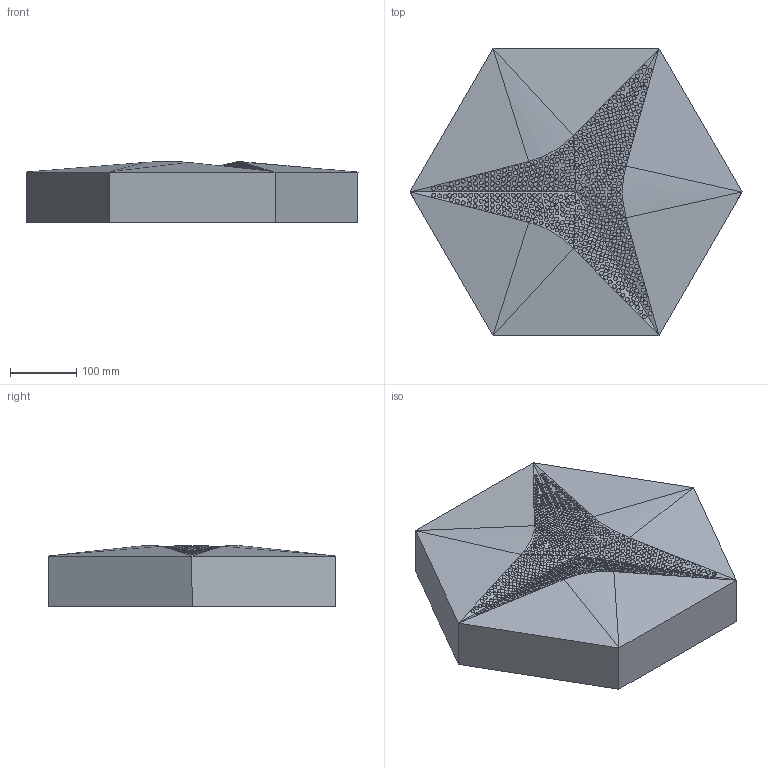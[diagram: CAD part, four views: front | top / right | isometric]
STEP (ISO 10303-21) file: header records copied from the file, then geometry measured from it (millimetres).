
FILE_DESCRIPTION(/* description */ (''),/* implementation_level */ '2;1');
FILE_NAME(/* name */ 'A02_HEXAGO_CM-D',/* time_stamp */ '2025-06-24T15:52:23+02:00',/* author */ (''),/* organization */ (''),/* preprocessor_version */ 'ST-DEVELOPER v16.5',/* originating_system */ 'Rhino 7.38',/* authorisation */ '');
FILE_SCHEMA (('CONFIG_CONTROL_DESIGN'));
Length unit declared in the file: millimetre
Products named in the file (1): Document
Bounding box: 500 x 433.01 x 91.83 mm (x, y, z)
Surface area: 423627.7 mm2 (no closed solid volume)
Topology: 0 solids, 1 shells, 25 faces, 651 edges, 621 vertices
Faces by surface type: plane 19, bspline 6
Entity records: 17429 total; most frequent: CARTESIAN_POINT 13413, ORIENTED_EDGE 684, EDGE_CURVE 645, B_SPLINE_CURVE_WITH_KNOTS 642, EDGE_LOOP 625, VERTEX_POINT 621, FACE_BOUND 600, ADVANCED_FACE 25
